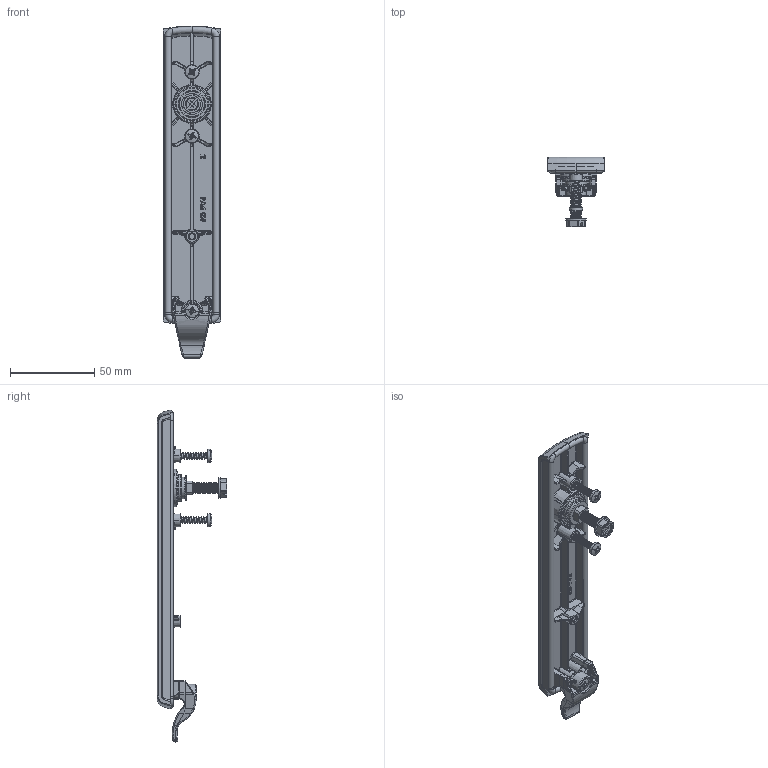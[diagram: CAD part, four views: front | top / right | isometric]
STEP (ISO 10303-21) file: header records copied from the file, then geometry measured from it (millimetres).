
FILE_DESCRIPTION (( 'STEP AP214' ), '1' );
FILE_NAME ('1B.RW420.M.STEP', '2022-02-04T07:34:31', ( '' ), ( '' ), 'SwSTEP 2.0', 'SolidWorks 2021', '' );
FILE_SCHEMA (( 'AUTOMOTIVE_DESIGN' ));
Length unit declared in the file: millimetre
Products named in the file (9): DIN 3771_16x2; P.014951_01-00; 1B.RW420.M; S6PZ_M6x20; DIN 7981_F.4.1x22; DIN 7981_F.4.1x16; P.014252_01-01; P.014706_00-00; 2.PT.001_A
Assembly tree (9 placements, depth 2):
  1B.RW420.M
    P.014252_01-01
    2.PT.001_A
    S6PZ_M6x20
    DIN 7981_F.4.1x22  x2
    P.014951_01-00
    DIN 3771_16x2
    P.014706_00-00
    DIN 7981_F.4.1x16
Bounding box: 34.28 x 41.2 x 196.6 mm (x, y, z)
Volume: 38216.2 mm3; surface area: 36341.5 mm2
Topology: 10 solids, 10 shells, 2079 faces, 4982 edges, 2959 vertices
Faces by surface type: plane 555, cylinder 474, bspline 464, torus 212, cone 204, sphere 170
Entity records: 84820 total; most frequent: CARTESIAN_POINT 41526, ORIENTED_EDGE 9582, DIRECTION 8065, EDGE_CURVE 4791, AXIS2_PLACEMENT_3D 3195, VERTEX_POINT 2839, EDGE_LOOP 2070, FACE_OUTER_BOUND 2015
